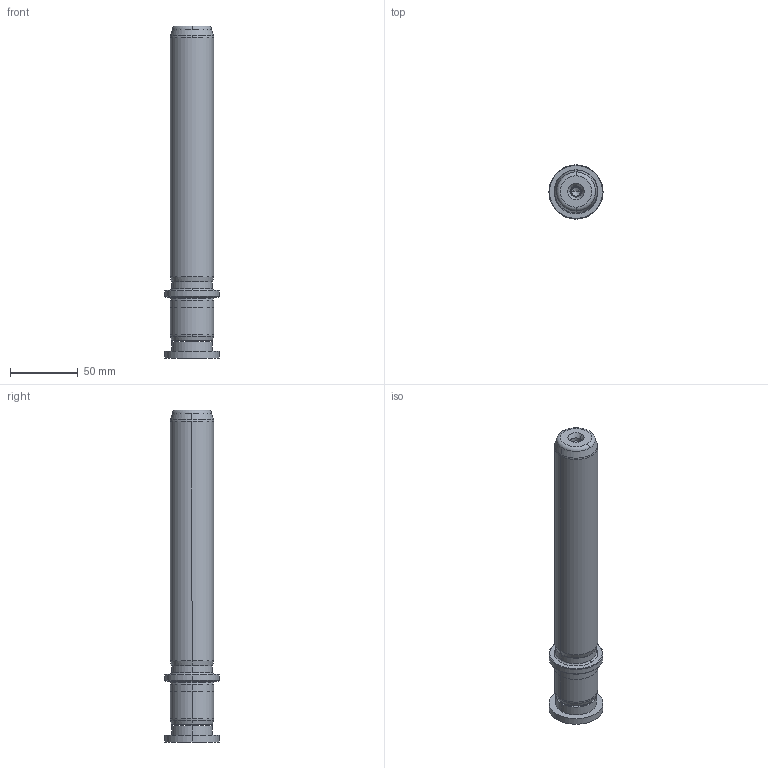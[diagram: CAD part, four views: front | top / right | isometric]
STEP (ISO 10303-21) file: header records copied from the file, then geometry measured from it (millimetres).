
FILE_DESCRIPTION((''),'2;1');
FILE_NAME('P22_032_200.stp','2009-02-03T14:02:26',(''),(''),'Mechanical Desktop 2009','Mechanical Desktop 2009',', , ');
FILE_SCHEMA(('CONFIG_CONTROL_DESIGN'));
Length unit declared in the file: millimetre
Products named in the file (2): Product; blmdl1
Assembly tree (1 placements, depth 2):
  Product
    blmdl1
Bounding box: 40 x 40 x 245 mm (x, y, z)
Volume: 196169.8 mm3; surface area: 31911.8 mm2
Topology: 3 solids, 3 shells, 99 faces, 237 edges, 149 vertices
Faces by surface type: cylinder 32, cone 28, plane 19, torus 10, bspline 10
Entity records: 3419 total; most frequent: CARTESIAN_POINT 923, DIRECTION 570, ORIENTED_EDGE 466, AXIS2_PLACEMENT_3D 246, EDGE_CURVE 233, CIRCLE 155, VERTEX_POINT 149, EDGE_LOOP 110
